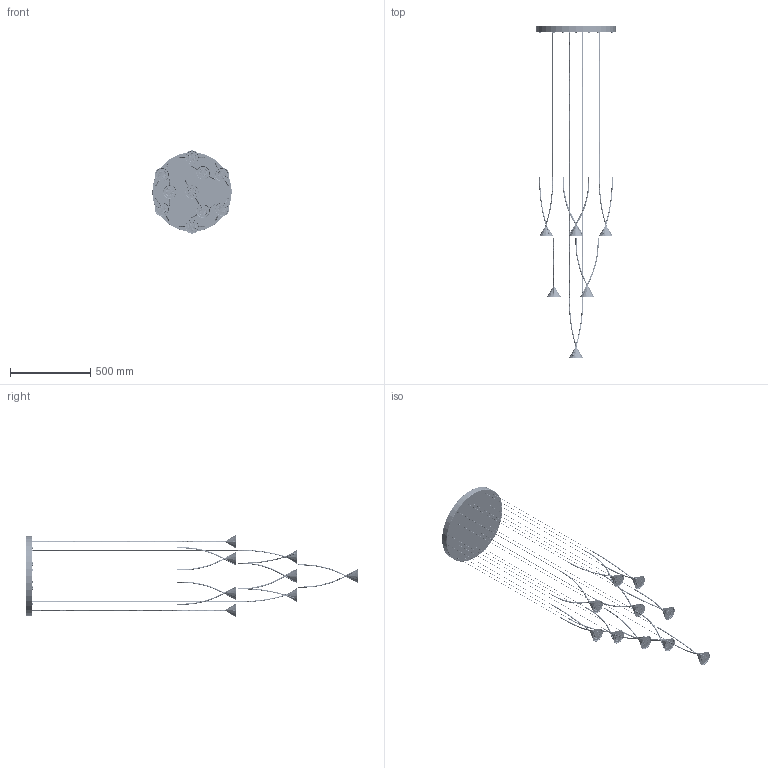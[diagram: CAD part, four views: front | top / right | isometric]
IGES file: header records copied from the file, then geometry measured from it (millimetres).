
Start section: SolidWorks IGES file using analytic representation for surfaces
Global section: file name: \\STORAGE\Tecnico Condiviso\1 FASCICOLI TECNICI\AXO DESIGN\AXO053-JEWEL\CE\SPJEWE10XXXXLED\SPJEWE10XXXXLED-PER 3D.IGS; native system: SolidWorks 2018; preprocessor: SolidWorks 2018; author: tecnico3; date: 180809.104943; units: millimetre
Bounding box: 495 x 2074.36 x 519.9 mm (x, y, z)
Surface area: 1339998.6 mm2 (no closed solid volume)
Topology: 0 solids, 0 shells, 23920 faces, 205141 edges, 204061 vertices
Faces by surface type: bspline 13360, revolution 10560
